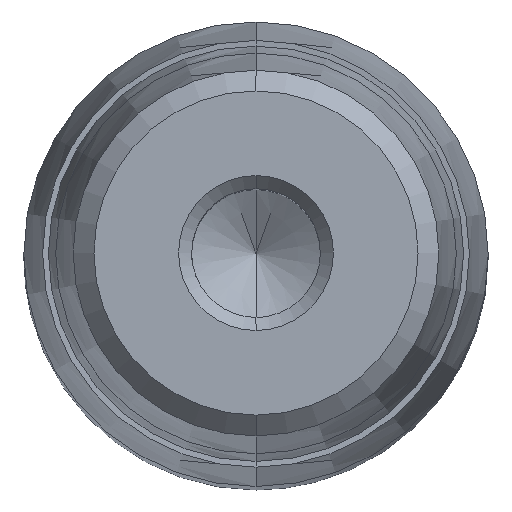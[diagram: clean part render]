
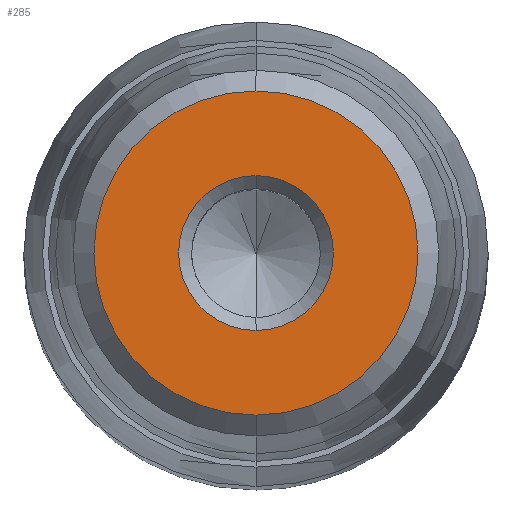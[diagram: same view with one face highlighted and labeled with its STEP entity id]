
A CAD part, top view. The second image highlights one B-rep face of the part: STEP entity #285.
In plain terms, the highlighted planar face has unit normal (0, 0, 1).
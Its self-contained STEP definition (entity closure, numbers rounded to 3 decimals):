
#164=CARTESIAN_POINT('Axis2P3D Location',(0.,0.,35.)) ;
#168=CARTESIAN_POINT('Vertex',(4.,0.,35.)) ;
#170=CARTESIAN_POINT('Vertex',(0.,-4.,35.)) ;
#173=CARTESIAN_POINT('Axis2P3D Location',(0.,0.,35.)) ;
#177=CARTESIAN_POINT('Vertex',(0.,4.,35.)) ;
#228=CARTESIAN_POINT('Axis2P3D Location',(0.,4.,35.)) ;
#233=CARTESIAN_POINT('Axis2P3D Location',(0.,0.,35.)) ;
#237=CARTESIAN_POINT('Vertex',(0.,8.375,35.)) ;
#239=CARTESIAN_POINT('Vertex',(8.375,0.,35.)) ;
#242=CARTESIAN_POINT('Axis2P3D Location',(0.,0.,35.)) ;
#246=CARTESIAN_POINT('Vertex',(-8.375,0.,35.)) ;
#249=CARTESIAN_POINT('Axis2P3D Location',(0.,0.,35.)) ;
#253=CARTESIAN_POINT('Vertex',(0.,-8.375,35.)) ;
#256=CARTESIAN_POINT('Axis2P3D Location',(0.,0.,35.)) ;
#267=CARTESIAN_POINT('Axis2P3D Location',(0.,0.,35.)) ;
#271=CARTESIAN_POINT('Vertex',(-4.,0.,35.)) ;
#274=CARTESIAN_POINT('Axis2P3D Location',(0.,0.,35.)) ;
#165=DIRECTION('Axis2P3D Direction',(-0.,0.,1.)) ;
#174=DIRECTION('Axis2P3D Direction',(-0.,0.,1.)) ;
#229=DIRECTION('Axis2P3D Direction',(0.,0.,-1.)) ;
#230=DIRECTION('Axis2P3D XDirection',(0.,1.,0.)) ;
#234=DIRECTION('Axis2P3D Direction',(0.,0.,-1.)) ;
#243=DIRECTION('Axis2P3D Direction',(0.,0.,-1.)) ;
#250=DIRECTION('Axis2P3D Direction',(0.,0.,-1.)) ;
#257=DIRECTION('Axis2P3D Direction',(0.,0.,-1.)) ;
#268=DIRECTION('Axis2P3D Direction',(0.,0.,-1.)) ;
#275=DIRECTION('Axis2P3D Direction',(0.,0.,-1.)) ;
#166=AXIS2_PLACEMENT_3D('Circle Axis2P3D',#164,#165,$) ;
#175=AXIS2_PLACEMENT_3D('Circle Axis2P3D',#173,#174,$) ;
#231=AXIS2_PLACEMENT_3D('Plane Axis2P3D',#228,#229,#230) ;
#235=AXIS2_PLACEMENT_3D('Circle Axis2P3D',#233,#234,$) ;
#244=AXIS2_PLACEMENT_3D('Circle Axis2P3D',#242,#243,$) ;
#251=AXIS2_PLACEMENT_3D('Circle Axis2P3D',#249,#250,$) ;
#258=AXIS2_PLACEMENT_3D('Circle Axis2P3D',#256,#257,$) ;
#269=AXIS2_PLACEMENT_3D('Circle Axis2P3D',#267,#268,$) ;
#276=AXIS2_PLACEMENT_3D('Circle Axis2P3D',#274,#275,$) ;
#262=ORIENTED_EDGE('',*,*,#241,.F.) ;
#263=ORIENTED_EDGE('',*,*,#248,.F.) ;
#264=ORIENTED_EDGE('',*,*,#255,.F.) ;
#265=ORIENTED_EDGE('',*,*,#260,.F.) ;
#280=ORIENTED_EDGE('',*,*,#172,.T.) ;
#281=ORIENTED_EDGE('',*,*,#273,.T.) ;
#282=ORIENTED_EDGE('',*,*,#278,.T.) ;
#283=ORIENTED_EDGE('',*,*,#179,.T.) ;
#284=FACE_BOUND('',#279,.T.) ;
#285=ADVANCED_FACE('722-24x125x148',(#266,#284),#232,.F.) ;
#167=CIRCLE('generated circle',#166,4.) ;
#176=CIRCLE('generated circle',#175,4.) ;
#236=CIRCLE('generated circle',#235,8.375) ;
#245=CIRCLE('generated circle',#244,8.375) ;
#252=CIRCLE('generated circle',#251,8.375) ;
#259=CIRCLE('generated circle',#258,8.375) ;
#270=CIRCLE('generated circle',#269,4.) ;
#277=CIRCLE('generated circle',#276,4.) ;
#172=EDGE_CURVE('',#169,#171,#167,.F.) ;
#179=EDGE_CURVE('',#178,#169,#176,.F.) ;
#241=EDGE_CURVE('',#238,#240,#236,.T.) ;
#248=EDGE_CURVE('',#247,#238,#245,.T.) ;
#255=EDGE_CURVE('',#254,#247,#252,.T.) ;
#260=EDGE_CURVE('',#240,#254,#259,.T.) ;
#273=EDGE_CURVE('',#171,#272,#270,.T.) ;
#278=EDGE_CURVE('',#272,#178,#277,.T.) ;
#261=EDGE_LOOP('',(#262,#263,#264,#265)) ;
#279=EDGE_LOOP('',(#280,#281,#282,#283)) ;
#266=FACE_OUTER_BOUND('',#261,.T.) ;
#232=PLANE('Plane',#231) ;
#169=VERTEX_POINT('',#168) ;
#171=VERTEX_POINT('',#170) ;
#178=VERTEX_POINT('',#177) ;
#238=VERTEX_POINT('',#237) ;
#240=VERTEX_POINT('',#239) ;
#247=VERTEX_POINT('',#246) ;
#254=VERTEX_POINT('',#253) ;
#272=VERTEX_POINT('',#271) ;
